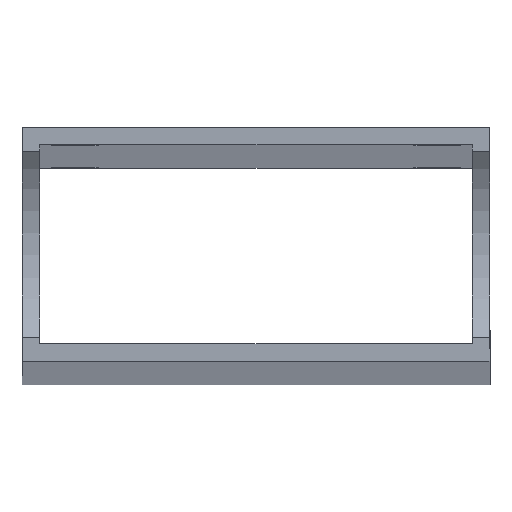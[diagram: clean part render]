
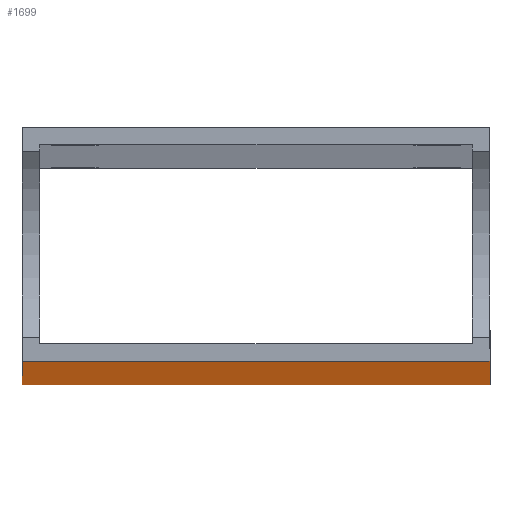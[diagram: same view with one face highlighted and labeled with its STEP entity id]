
A CAD part, top view. The second image highlights one B-rep face of the part: STEP entity #1699.
In plain terms, the highlighted planar face has unit normal (0, -1, 0).
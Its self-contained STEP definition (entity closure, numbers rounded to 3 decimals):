
#27 = DIRECTION ( 'NONE',  ( 0., 1., 0. ) ) ;
#116 = DIRECTION ( 'NONE',  ( 1., 0., 0. ) ) ;
#151 = CARTESIAN_POINT ( 'NONE',  ( 20., -10., -580. ) ) ;
#165 = DIRECTION ( 'NONE',  ( 0., 0., -1. ) ) ;
#187 = ORIENTED_EDGE ( 'NONE', *, *, #1482, .F. ) ;
#188 = CARTESIAN_POINT ( 'NONE',  ( -20., -10., 580. ) ) ;
#195 = ORIENTED_EDGE ( 'NONE', *, *, #960, .T. ) ;
#215 = VERTEX_POINT ( 'NONE', #1046 ) ;
#341 = ORIENTED_EDGE ( 'NONE', *, *, #676, .T. ) ;
#347 = DIRECTION ( 'NONE',  ( 1., 0., 0. ) ) ;
#418 = DIRECTION ( 'NONE',  ( 0., 0., 1. ) ) ;
#419 = VERTEX_POINT ( 'NONE', #151 ) ;
#444 = CARTESIAN_POINT ( 'NONE',  ( 20., -10., 580. ) ) ;
#472 = CARTESIAN_POINT ( 'NONE',  ( 20., -10., -580. ) ) ;
#568 = PLANE ( 'NONE',  #773 ) ;
#640 = VECTOR ( 'NONE', #116, 1000. ) ;
#676 = EDGE_CURVE ( 'NONE', #215, #419, #1678, .T. ) ;
#700 = CARTESIAN_POINT ( 'NONE',  ( 20., -10., 580. ) ) ;
#712 = EDGE_CURVE ( 'NONE', #989, #1396, #1301, .T. ) ;
#773 = AXIS2_PLACEMENT_3D ( 'NONE', #700, #27, #418 ) ;
#823 = CARTESIAN_POINT ( 'NONE',  ( -20., -10., 580. ) ) ;
#900 = DIRECTION ( 'NONE',  ( 0., 0., -1. ) ) ;
#957 = LINE ( 'NONE', #823, #1669 ) ;
#960 = EDGE_CURVE ( 'NONE', #989, #215, #957, .T. ) ;
#989 = VERTEX_POINT ( 'NONE', #188 ) ;
#1034 = EDGE_LOOP ( 'NONE', ( #341, #187, #1654, #195 ) ) ;
#1046 = CARTESIAN_POINT ( 'NONE',  ( -20., -10., -580. ) ) ;
#1265 = VECTOR ( 'NONE', #900, 1000. ) ;
#1297 = CARTESIAN_POINT ( 'NONE',  ( 20., -10., 580. ) ) ;
#1301 = LINE ( 'NONE', #1421, #1432 ) ;
#1396 = VERTEX_POINT ( 'NONE', #1297 ) ;
#1421 = CARTESIAN_POINT ( 'NONE',  ( 20., -10., 580. ) ) ;
#1432 = VECTOR ( 'NONE', #347, 1000. ) ;
#1482 = EDGE_CURVE ( 'NONE', #1396, #419, #1565, .T. ) ;
#1565 = LINE ( 'NONE', #444, #1265 ) ;
#1641 = FACE_OUTER_BOUND ( 'NONE', #1034, .T. ) ;
#1654 = ORIENTED_EDGE ( 'NONE', *, *, #712, .F. ) ;
#1669 = VECTOR ( 'NONE', #165, 1000. ) ;
#1678 = LINE ( 'NONE', #472, #640 ) ;
#1699 = ADVANCED_FACE ( 'NONE', ( #1641 ), #568, .F. ) ;
